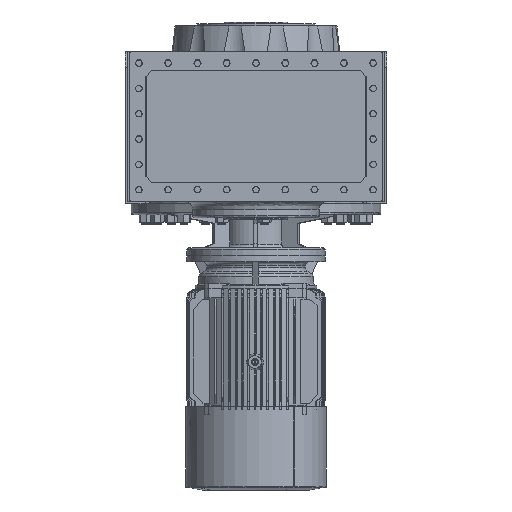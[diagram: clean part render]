
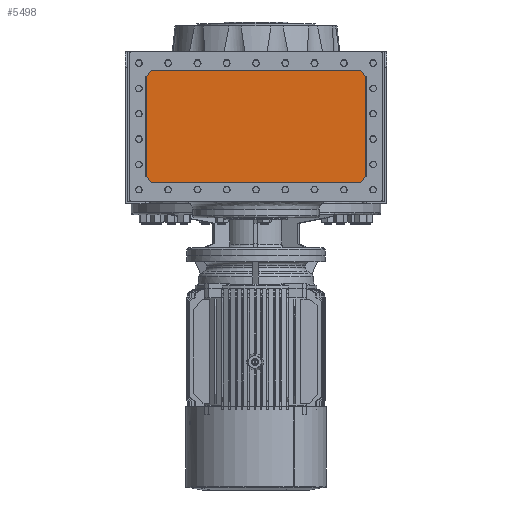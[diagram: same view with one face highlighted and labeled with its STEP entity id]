
A CAD part, front view. The second image highlights one B-rep face of the part: STEP entity #5498.
In plain terms, the highlighted planar face has unit normal (0, -1, 0).
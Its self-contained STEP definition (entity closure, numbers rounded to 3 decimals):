
#5479 = ORIENTED_EDGE ( 'NONE', *, *, #28643, .F. ) ;
#5490 = ORIENTED_EDGE ( 'NONE', *, *, #28543, .F. ) ;
#5492 = ORIENTED_EDGE ( 'NONE', *, *, #28511, .F. ) ;
#5497 = ORIENTED_EDGE ( 'NONE', *, *, #28607, .F. ) ;
#5498 = ADVANCED_FACE ( 'NONE', ( #23581 ), #64327, .T. ) ;
#5513 = ORIENTED_EDGE ( 'NONE', *, *, #28470, .F. ) ;
#5515 = ORIENTED_EDGE ( 'NONE', *, *, #28479, .F. ) ;
#5526 = ORIENTED_EDGE ( 'NONE', *, *, #28318, .F. ) ;
#5556 = ORIENTED_EDGE ( 'NONE', *, *, #28539, .F. ) ;
#16716 = CARTESIAN_POINT ( 'NONE',  ( -277.196, -262., 68.333 ) ) ;
#16752 = CARTESIAN_POINT ( 'NONE',  ( -262.667, -262., 336.196 ) ) ;
#16754 = CARTESIAN_POINT ( 'NONE',  ( 262.667, -262., 53.804 ) ) ;
#16805 = CARTESIAN_POINT ( 'NONE',  ( -277.196, -262., 321.667 ) ) ;
#16816 = CARTESIAN_POINT ( 'NONE',  ( -262.667, -262., 53.804 ) ) ;
#16821 = CARTESIAN_POINT ( 'NONE',  ( 262.667, -262., 336.196 ) ) ;
#16836 = CARTESIAN_POINT ( 'NONE',  ( 277.196, -262., 68.333 ) ) ;
#16856 = CARTESIAN_POINT ( 'NONE',  ( 277.196, -262., 321.667 ) ) ;
#23581 = FACE_OUTER_BOUND ( 'NONE', #43243, .T. ) ;
#27260 = CARTESIAN_POINT ( 'NONE',  ( 263., -262., 53.804 ) ) ;
#27319 = CARTESIAN_POINT ( 'NONE',  ( -277.196, -262., 68. ) ) ;
#27332 = DIRECTION ( 'NONE',  ( 0., 0., 1. ) ) ;
#27350 = DIRECTION ( 'NONE',  ( -1., 0., 0. ) ) ;
#27671 = CARTESIAN_POINT ( 'NONE',  ( 277.196, -262., 68. ) ) ;
#27742 = DIRECTION ( 'NONE',  ( 0., 0., -1. ) ) ;
#27871 = DIRECTION ( 'NONE',  ( -0.707, 0., -0.707 ) ) ;
#27881 = CARTESIAN_POINT ( 'NONE',  ( 262.432, -262., 53.568 ) ) ;
#28318 = EDGE_CURVE ( 'NONE', #60869, #60753, #77946, .T. ) ;
#28470 = EDGE_CURVE ( 'NONE', #60756, #60870, #78385, .T. ) ;
#28479 = EDGE_CURVE ( 'NONE', #60864, #60756, #78368, .T. ) ;
#28511 = EDGE_CURVE ( 'NONE', #60870, #60854, #78327, .T. ) ;
#28539 = EDGE_CURVE ( 'NONE', #60751, #60869, #78285, .T. ) ;
#28543 = EDGE_CURVE ( 'NONE', #60753, #60864, #78229, .T. ) ;
#28607 = EDGE_CURVE ( 'NONE', #60854, #60831, #78434, .T. ) ;
#28643 = EDGE_CURVE ( 'NONE', #60831, #60751, #78394, .T. ) ;
#29612 = CARTESIAN_POINT ( 'NONE',  ( -262.432, -262., 53.568 ) ) ;
#29615 = DIRECTION ( 'NONE',  ( -0.707, 0., 0.707 ) ) ;
#29784 = CARTESIAN_POINT ( 'NONE',  ( 263., -262., 336.196 ) ) ;
#29788 = DIRECTION ( 'NONE',  ( 1., 0., 0. ) ) ;
#29807 = CARTESIAN_POINT ( 'NONE',  ( -262.432, -262., 336.432 ) ) ;
#29818 = DIRECTION ( 'NONE',  ( 0.707, 0., 0.707 ) ) ;
#29844 = CARTESIAN_POINT ( 'NONE',  ( 277.432, -262., 321.432 ) ) ;
#29848 = DIRECTION ( 'NONE',  ( 0.707, 0., -0.707 ) ) ;
#43243 = EDGE_LOOP ( 'NONE', ( #5490, #5526, #5556, #5479, #5497, #5492, #5513, #5515 ) ) ;
#60751 = VERTEX_POINT ( 'NONE', #16754 ) ;
#60753 = VERTEX_POINT ( 'NONE', #16716 ) ;
#60756 = VERTEX_POINT ( 'NONE', #16752 ) ;
#60831 = VERTEX_POINT ( 'NONE', #16836 ) ;
#60854 = VERTEX_POINT ( 'NONE', #16856 ) ;
#60864 = VERTEX_POINT ( 'NONE', #16805 ) ;
#60869 = VERTEX_POINT ( 'NONE', #16816 ) ;
#60870 = VERTEX_POINT ( 'NONE', #16821 ) ;
#64327 = PLANE ( 'NONE',  #69213 ) ;
#64329 = DIRECTION ( 'NONE',  ( 0., -1., 0. ) ) ;
#64355 = DIRECTION ( 'NONE',  ( 0., 0., -1. ) ) ;
#64409 = CARTESIAN_POINT ( 'NONE',  ( 0., -262., 0. ) ) ;
#69213 = AXIS2_PLACEMENT_3D ( 'NONE', #64409, #64329, #64355 ) ;
#77946 = LINE ( 'NONE', #29612, #78090 ) ;
#78090 = VECTOR ( 'NONE', #29615, 1000. ) ;
#78229 = LINE ( 'NONE', #27319, #78252 ) ;
#78235 = VECTOR ( 'NONE', #29788, 1000. ) ;
#78252 = VECTOR ( 'NONE', #27332, 1000. ) ;
#78285 = LINE ( 'NONE', #27260, #78324 ) ;
#78298 = VECTOR ( 'NONE', #29818, 1000. ) ;
#78324 = VECTOR ( 'NONE', #27350, 1000. ) ;
#78327 = LINE ( 'NONE', #29844, #78362 ) ;
#78362 = VECTOR ( 'NONE', #29848, 1000. ) ;
#78368 = LINE ( 'NONE', #29807, #78298 ) ;
#78385 = LINE ( 'NONE', #29784, #78235 ) ;
#78394 = LINE ( 'NONE', #27881, #78438 ) ;
#78434 = LINE ( 'NONE', #27671, #78509 ) ;
#78438 = VECTOR ( 'NONE', #27871, 1000. ) ;
#78509 = VECTOR ( 'NONE', #27742, 1000. ) ;
